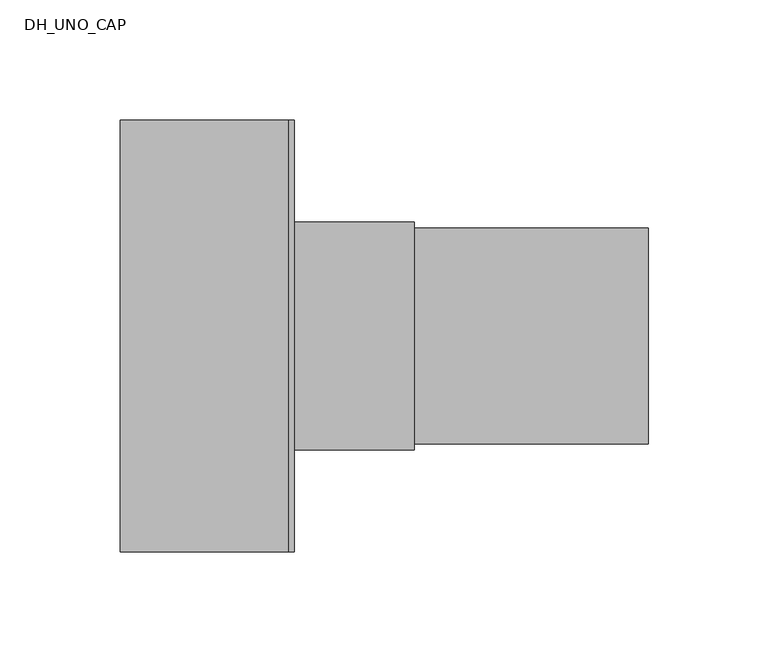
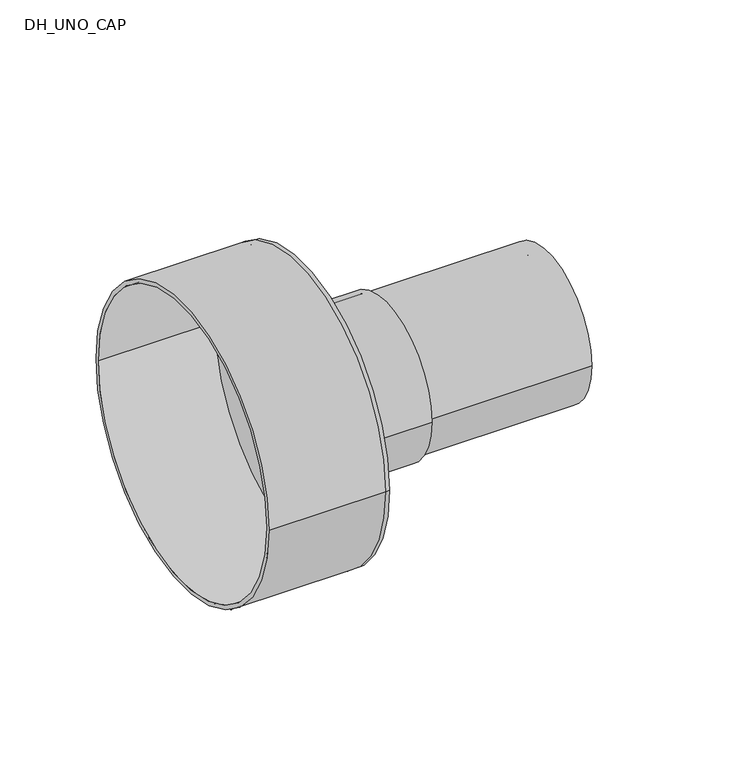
"""IFC4 building model written with IfcOpenShell, lengths in millimetres: pipe fitting geometry, DH_UNO_CAP : RAUVIPEX UNO 11 Heating - Rubber Cap."""

from ifc_helpers import new_model, si_unit, point, frame, origin, origin_2d, place, context, project, spatial, polyline, circle_curve, trimmed, segment, composite_curve, outline, extrude, source, transform, mapped, element, save
from ifc_brep_helpers import plane_surface, cylinder_surface, revolved_surface, advanced_brep


def dh_uno_cap_67f7fff9(model_context):
    return source(origin(), model_context, "Body", "SolidModel", [
        extrude(outline(composite_curve([segment(trimmed(circle_curve(origin_2d(), 45.0), [point((-45.0, 0.0))], [point((45.0, 0.0))], False, "CARTESIAN"), True, "CONTINUOUS"), segment(trimmed(circle_curve(origin_2d(), 45.0), [point((45.0, 0.0))], [point((-45.0, 0.0))], False, "CARTESIAN"), True, "CONTINUOUS")], self_intersect=False), holes=[composite_curve([segment(trimmed(circle_curve(origin_2d(), 36.8), [point((-36.8, 0.0))], [point((36.8, 0.0))], True, "CARTESIAN"), True, "CONTINUOUS"), segment(trimmed(circle_curve(origin_2d(), 36.8), [point((36.8, 0.0))], [point((-36.8, 0.0))], True, "CARTESIAN"), True, "CONTINUOUS")], self_intersect=False)]), frame((0.0, 0.0, 0.0), z_axis=(1.0, 0.0, 0.0), x_axis=(0.0, 1.0, 0.0)), (0.0, 0.0, 1.0), 150.0),
        advanced_brep(
        [(-70.0, -90.0, 0.0), (-70.0, 90.0, 0.0), (-70.0, -87.5, 0.0), (-70.0, 87.5, 0.0), (0.0, -87.5, 0.0), (0.0, 87.5, 0.0), (0.0, -90.0, 0.0), (0.0, 90.0, 0.0), (0.0, 45.0, 0.0), (0.0, -45.0, 0.0), (2.5, -90.0, 0.0), (2.5, 90.0, 0.0), (2.5, -45.0, 0.0), (2.5, 45.0, 0.0)],
        [
            (0, 1, circle_curve(frame((-70.0, 0.0, 0.0), z_axis=(-1.0, 0.0, 0.0), x_axis=(0.0, 1.0, 0.0)), 90.0)),
            (1, 0, circle_curve(frame((-70.0, 0.0, 0.0), z_axis=(-1.0, 0.0, 0.0), x_axis=(0.0, 1.0, 0.0)), 90.0)),
            (2, 3, circle_curve(frame((-70.0, 0.0, 0.0), z_axis=(1.0, 0.0, 0.0), x_axis=(0.0, 1.0, 0.0)), 87.5)),
            (3, 2, circle_curve(frame((-70.0, 0.0, 0.0), z_axis=(1.0, 0.0, 0.0), x_axis=(0.0, 1.0, 0.0)), 87.5)),
            (2, 4),
            (4, 5, circle_curve(frame((0.0, 0.0, 0.0), z_axis=(1.0, 0.0, 0.0), x_axis=(0.0, 1.0, 0.0)), 87.5)),
            (5, 3),
            (5, 4, circle_curve(frame((0.0, 0.0, 0.0), z_axis=(1.0, 0.0, 0.0), x_axis=(0.0, 1.0, 0.0)), 87.5)),
            (0, 6),
            (6, 7, circle_curve(frame((0.0, 0.0, 0.0), z_axis=(-1.0, 0.0, 0.0), x_axis=(0.0, 1.0, 0.0)), 90.0)),
            (7, 1),
            (7, 6, circle_curve(frame((0.0, 0.0, 0.0), z_axis=(-1.0, 0.0, 0.0), x_axis=(0.0, 1.0, 0.0)), 90.0)),
            (8, 9, circle_curve(frame((0.0, 0.0, 0.0), z_axis=(1.0, 0.0, 0.0), x_axis=(0.0, 1.0, 0.0)), 45.0)),
            (9, 8, circle_curve(frame((0.0, 0.0, 0.0), z_axis=(1.0, 0.0, 0.0), x_axis=(0.0, 1.0, 0.0)), 45.0)),
            (10, 11, circle_curve(frame((2.5, 0.0, 0.0), z_axis=(1.0, 0.0, 0.0), x_axis=(0.0, 1.0, 0.0)), 90.0)),
            (11, 10, circle_curve(frame((2.5, 0.0, 0.0), z_axis=(1.0, 0.0, 0.0), x_axis=(0.0, 1.0, 0.0)), 90.0)),
            (12, 13, circle_curve(frame((2.5, 0.0, 0.0), z_axis=(-1.0, 0.0, 0.0), x_axis=(0.0, 1.0, 0.0)), 45.0)),
            (13, 12, circle_curve(frame((2.5, 0.0, 0.0), z_axis=(-1.0, 0.0, 0.0), x_axis=(0.0, 1.0, 0.0)), 45.0)),
            (11, 7),
            (6, 10),
            (8, 13),
            (12, 9),
        ],
        [
            plane_surface(frame((-70.0, 0.0, 0.0), z_axis=(-1.0, 0.0, 0.0), x_axis=(0.0, 0.0, 1.0))),
            revolved_surface(polyline([(0.0, 87.5, 0.0), (-70.0, 87.5, 0.0)]), (-70.0, 0.0, 0.0), (1.0, 0.0, 0.0)),
            cylinder_surface(frame((-70.0, 0.0, 0.0), z_axis=(-1.0, 0.0, 0.0), x_axis=(0.0, 1.0, 0.0)), 90.0),
            plane_surface(frame((0.0, 0.0, 0.0), z_axis=(-1.0, 0.0, 0.0), x_axis=(0.0, 0.0, 1.0))),
            plane_surface(frame((2.5, 0.0, 0.0), z_axis=(1.0, 0.0, 0.0), x_axis=(0.0, 0.0, 1.0))),
            cylinder_surface(frame((0.0, 0.0, 0.0), z_axis=(-1.0, 0.0, 0.0), x_axis=(0.0, 1.0, 0.0)), 90.0),
            revolved_surface(polyline([(0.0, 45.0, 0.0), (2.5, 45.0, 0.0)]), (0.0, 0.0, 0.0), (-1.0, 0.0, 0.0)),
        ],
        [
            (0, [[1, 2], [3, 4]]),
            (1, [[-3, 5, 6, 7]]),
            (1, [[-4, -7, 8, -5]]),
            (2, [[-1, 9, 10, 11]]),
            (2, [[-2, -11, 12, -9]]),
            (3, [[-6, -8], [13, 14]]),
            (4, [[15, 16], [17, 18]]),
            (5, [[-16, 19, -10, 20]]),
            (5, [[-15, -20, -12, -19]]),
            (6, [[21, -17, 22, -13]]),
            (6, [[-21, -14, -22, -18]]),
        ],
    ),
        extrude(outline(composite_curve([segment(trimmed(circle_curve(origin_2d(), 47.5), [point((-47.5, 0.0))], [point((47.5, 0.0))], False, "CARTESIAN"), True, "CONTINUOUS"), segment(trimmed(circle_curve(origin_2d(), 47.5), [point((47.5, 0.0))], [point((-47.5, 0.0))], False, "CARTESIAN"), True, "CONTINUOUS")], self_intersect=False), holes=[composite_curve([segment(trimmed(circle_curve(origin_2d(), 45.0), [point((-45.0, 0.0))], [point((45.0, 0.0))], True, "CARTESIAN"), True, "CONTINUOUS"), segment(trimmed(circle_curve(origin_2d(), 45.0), [point((45.0, 0.0))], [point((-45.0, 0.0))], True, "CARTESIAN"), True, "CONTINUOUS")], self_intersect=False)]), frame((2.5, 0.0, 0.0), z_axis=(1.0, 0.0, 0.0), x_axis=(0.0, 1.0, 0.0)), (0.0, 0.0, 1.0), 50.0),
    ])


if __name__ == "__main__":
    model = new_model("IFC4")
    model_context = context("Model", 3, world=origin())
    ifc_project = project(units=[si_unit("LENGTHUNIT", "METRE", prefix="MILLI")], contexts=[model_context])
    site = spatial("IfcSite", under=ifc_project)
    building = spatial("IfcBuilding", under=site)
    placement = place(None, origin())
    dh_uno_cap_shape = dh_uno_cap_67f7fff9(model_context)
    element("IfcPipeFitting", 1, ObjectType="DH_UNO_CAP : RAUVIPEX UNO 11 Heating - Rubber Cap", at=placement, inside=building, context=model_context, shape_type="MappedRepresentation", body=[
        mapped(dh_uno_cap_shape, transform((0.0, 0.0, 0.0), x_axis=(1.0, 0.0, 0.0), y_axis=(0.0, 1.0, 0.0), z_axis=(0.0, 0.0, 1.0))),
    ])
    save(model, "model.ifc")
